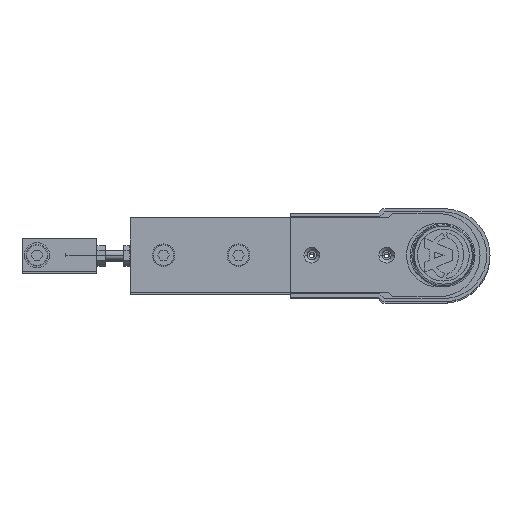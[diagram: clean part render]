
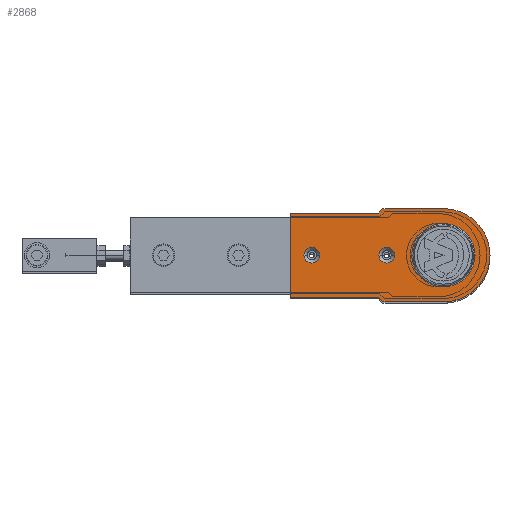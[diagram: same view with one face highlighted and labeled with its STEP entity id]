
A CAD part, top view. The second image highlights one B-rep face of the part: STEP entity #2868.
In plain terms, the highlighted planar face has unit normal (0, 0, 1).
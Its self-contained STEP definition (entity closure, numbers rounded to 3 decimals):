
#200 = CARTESIAN_POINT ( 'NONE',  ( 79., 0., 37. ) ) ;
#485 = EDGE_CURVE ( 'NONE', #3240, #4390, #10480, .T. ) ;
#493 = DIRECTION ( 'NONE',  ( 0., 0., -1. ) ) ;
#516 = VERTEX_POINT ( 'NONE', #3398 ) ;
#723 = CARTESIAN_POINT ( 'NONE',  ( 0., 0., 37. ) ) ;
#729 = DIRECTION ( 'NONE',  ( 0., 0., 1. ) ) ;
#996 = EDGE_CURVE ( 'NONE', #7141, #6747, #2289, .T. ) ;
#1041 = VECTOR ( 'NONE', #3811, 1000. ) ;
#1132 = AXIS2_PLACEMENT_3D ( 'NONE', #723, #8504, #9567 ) ;
#1324 = EDGE_CURVE ( 'NONE', #5258, #7141, #1955, .T. ) ;
#1378 = VECTOR ( 'NONE', #2640, 1000. ) ;
#1412 = ORIENTED_EDGE ( 'NONE', *, *, #2150, .T. ) ;
#1518 = EDGE_LOOP ( 'NONE', ( #7867, #2870, #4791, #1412, #4377, #2386, #2671, #11384, #12159 ) ) ;
#1547 = CARTESIAN_POINT ( 'NONE',  ( 34., 0., 37. ) ) ;
#1692 = AXIS2_PLACEMENT_3D ( 'NONE', #2829, #9763, #10941 ) ;
#1842 = DIRECTION ( 'NONE',  ( 1., 0., 0. ) ) ;
#1916 = DIRECTION ( 'NONE',  ( -1., 0., 0. ) ) ;
#1923 = FACE_BOUND ( 'NONE', #6279, .T. ) ;
#1938 = DIRECTION ( 'NONE',  ( 1., 0., 0. ) ) ;
#1955 = LINE ( 'NONE', #2708, #1041 ) ;
#2150 = EDGE_CURVE ( 'NONE', #6293, #7556, #3019, .T. ) ;
#2254 = DIRECTION ( 'NONE',  ( 0.707, 0.707, 0. ) ) ;
#2256 = VECTOR ( 'NONE', #1938, 1000. ) ;
#2289 = LINE ( 'NONE', #4082, #6770 ) ;
#2385 = CIRCLE ( 'NONE', #10486, 4.7 ) ;
#2386 = ORIENTED_EDGE ( 'NONE', *, *, #7532, .T. ) ;
#2420 = LINE ( 'NONE', #9786, #2256 ) ;
#2427 = CIRCLE ( 'NONE', #11210, 18.996 ) ;
#2457 = CARTESIAN_POINT ( 'NONE',  ( 79., 0., 37. ) ) ;
#2459 = DIRECTION ( 'NONE',  ( 0., 0., 1. ) ) ;
#2640 = DIRECTION ( 'NONE',  ( 0., 1., 0. ) ) ;
#2671 = ORIENTED_EDGE ( 'NONE', *, *, #12811, .T. ) ;
#2708 = CARTESIAN_POINT ( 'NONE',  ( 36.25, 28., 37. ) ) ;
#2829 = CARTESIAN_POINT ( 'NONE',  ( 0., 0., 37. ) ) ;
#2853 = VERTEX_POINT ( 'NONE', #6612 ) ;
#2868 = ADVANCED_FACE ( 'NONE', ( #5011, #1923, #9997, #9680 ), #4743, .T. ) ;
#2870 = ORIENTED_EDGE ( 'NONE', *, *, #996, .T. ) ;
#2905 = ORIENTED_EDGE ( 'NONE', *, *, #7182, .F. ) ;
#2911 = AXIS2_PLACEMENT_3D ( 'NONE', #200, #10084, #5083 ) ;
#2923 = CARTESIAN_POINT ( 'NONE',  ( 92., -25.25, 37. ) ) ;
#3019 = CIRCLE ( 'NONE', #1692, 28. ) ;
#3074 = CARTESIAN_POINT ( 'NONE',  ( 36.25, -28., 37. ) ) ;
#3111 = CARTESIAN_POINT ( 'NONE',  ( 39., 25.25, 37. ) ) ;
#3240 = VERTEX_POINT ( 'NONE', #12246 ) ;
#3333 = CARTESIAN_POINT ( 'NONE',  ( 36.25, 28., 37. ) ) ;
#3398 = CARTESIAN_POINT ( 'NONE',  ( 39., -25.25, 37. ) ) ;
#3448 = LINE ( 'NONE', #3074, #11223 ) ;
#3643 = EDGE_CURVE ( 'NONE', #7556, #10477, #2420, .T. ) ;
#3655 = CARTESIAN_POINT ( 'NONE',  ( 38.7, 0., 37. ) ) ;
#3660 = AXIS2_PLACEMENT_3D ( 'NONE', #7639, #729, #4580 ) ;
#3787 = ORIENTED_EDGE ( 'NONE', *, *, #6797, .F. ) ;
#3811 = DIRECTION ( 'NONE',  ( -0.707, 0.707, 0. ) ) ;
#3816 = EDGE_LOOP ( 'NONE', ( #4575, #3787 ) ) ;
#3883 = AXIS2_PLACEMENT_3D ( 'NONE', #2457, #9393, #5397 ) ;
#4053 = CARTESIAN_POINT ( 'NONE',  ( -18.996, 0., 37. ) ) ;
#4057 = ORIENTED_EDGE ( 'NONE', *, *, #6346, .T. ) ;
#4082 = CARTESIAN_POINT ( 'NONE',  ( 0., 28., 37. ) ) ;
#4133 = CIRCLE ( 'NONE', #9108, 4.7 ) ;
#4168 = CIRCLE ( 'NONE', #7083, 18.996 ) ;
#4377 = ORIENTED_EDGE ( 'NONE', *, *, #3643, .T. ) ;
#4390 = VERTEX_POINT ( 'NONE', #10318 ) ;
#4575 = ORIENTED_EDGE ( 'NONE', *, *, #485, .F. ) ;
#4580 = DIRECTION ( 'NONE',  ( 1., 0., 0. ) ) ;
#4603 = EDGE_CURVE ( 'NONE', #11997, #5258, #11617, .T. ) ;
#4641 = LINE ( 'NONE', #2923, #9130 ) ;
#4743 = PLANE ( 'NONE',  #1132 ) ;
#4791 = ORIENTED_EDGE ( 'NONE', *, *, #12656, .T. ) ;
#5011 = FACE_BOUND ( 'NONE', #10908, .T. ) ;
#5083 = DIRECTION ( 'NONE',  ( 1., 0., 0. ) ) ;
#5258 = VERTEX_POINT ( 'NONE', #3111 ) ;
#5397 = DIRECTION ( 'NONE',  ( 1., 0., 0. ) ) ;
#5984 = EDGE_CURVE ( 'NONE', #11465, #9695, #4133, .T. ) ;
#6279 = EDGE_LOOP ( 'NONE', ( #2905, #7765 ) ) ;
#6293 = VERTEX_POINT ( 'NONE', #9811 ) ;
#6346 = EDGE_CURVE ( 'NONE', #8584, #2853, #2427, .T. ) ;
#6535 = VERTEX_POINT ( 'NONE', #7837 ) ;
#6612 = CARTESIAN_POINT ( 'NONE',  ( 18.996, 0., 37. ) ) ;
#6747 = VERTEX_POINT ( 'NONE', #11916 ) ;
#6770 = VECTOR ( 'NONE', #9103, 1000. ) ;
#6797 = EDGE_CURVE ( 'NONE', #4390, #3240, #7331, .T. ) ;
#7083 = AXIS2_PLACEMENT_3D ( 'NONE', #9423, #493, #12377 ) ;
#7141 = VERTEX_POINT ( 'NONE', #3333 ) ;
#7182 = EDGE_CURVE ( 'NONE', #9695, #11465, #2385, .T. ) ;
#7258 = CARTESIAN_POINT ( 'NONE',  ( 34., 0., 37. ) ) ;
#7331 = CIRCLE ( 'NONE', #2911, 4.7 ) ;
#7389 = CARTESIAN_POINT ( 'NONE',  ( 92., 25.25, 37. ) ) ;
#7532 = EDGE_CURVE ( 'NONE', #10477, #516, #3448, .T. ) ;
#7556 = VERTEX_POINT ( 'NONE', #8997 ) ;
#7639 = CARTESIAN_POINT ( 'NONE',  ( 0., 0., 37. ) ) ;
#7699 = ORIENTED_EDGE ( 'NONE', *, *, #9617, .T. ) ;
#7765 = ORIENTED_EDGE ( 'NONE', *, *, #5984, .F. ) ;
#7837 = CARTESIAN_POINT ( 'NONE',  ( 92., -25.25, 37. ) ) ;
#7867 = ORIENTED_EDGE ( 'NONE', *, *, #1324, .T. ) ;
#8136 = DIRECTION ( 'NONE',  ( 1., 0., 0. ) ) ;
#8156 = VECTOR ( 'NONE', #1916, 1000. ) ;
#8504 = DIRECTION ( 'NONE',  ( 0., 0., 1. ) ) ;
#8584 = VERTEX_POINT ( 'NONE', #4053 ) ;
#8997 = CARTESIAN_POINT ( 'NONE',  ( 0., -28., 37. ) ) ;
#9103 = DIRECTION ( 'NONE',  ( -1., 0., 0. ) ) ;
#9108 = AXIS2_PLACEMENT_3D ( 'NONE', #1547, #2459, #9440 ) ;
#9130 = VECTOR ( 'NONE', #1842, 1000. ) ;
#9185 = DIRECTION ( 'NONE',  ( 0., 0., 1. ) ) ;
#9393 = DIRECTION ( 'NONE',  ( 0., 0., 1. ) ) ;
#9423 = CARTESIAN_POINT ( 'NONE',  ( 0., 0., 37. ) ) ;
#9440 = DIRECTION ( 'NONE',  ( 1., 0., 0. ) ) ;
#9478 = CARTESIAN_POINT ( 'NONE',  ( 36.25, -28., 37. ) ) ;
#9567 = DIRECTION ( 'NONE',  ( 1., 0., 0. ) ) ;
#9617 = EDGE_CURVE ( 'NONE', #2853, #8584, #4168, .T. ) ;
#9680 = FACE_OUTER_BOUND ( 'NONE', #1518, .T. ) ;
#9695 = VERTEX_POINT ( 'NONE', #3655 ) ;
#9763 = DIRECTION ( 'NONE',  ( 0., 0., 1. ) ) ;
#9786 = CARTESIAN_POINT ( 'NONE',  ( 0., -28., 37. ) ) ;
#9811 = CARTESIAN_POINT ( 'NONE',  ( -28., 0., 37. ) ) ;
#9986 = CARTESIAN_POINT ( 'NONE',  ( 39., 25.25, 37. ) ) ;
#9997 = FACE_BOUND ( 'NONE', #3816, .T. ) ;
#10084 = DIRECTION ( 'NONE',  ( 0., 0., 1. ) ) ;
#10318 = CARTESIAN_POINT ( 'NONE',  ( 74.3, 0., 37. ) ) ;
#10327 = DIRECTION ( 'NONE',  ( 1., 0., 0. ) ) ;
#10477 = VERTEX_POINT ( 'NONE', #9478 ) ;
#10480 = CIRCLE ( 'NONE', #3883, 4.7 ) ;
#10486 = AXIS2_PLACEMENT_3D ( 'NONE', #7258, #9185, #10327 ) ;
#10853 = LINE ( 'NONE', #11662, #1378 ) ;
#10908 = EDGE_LOOP ( 'NONE', ( #7699, #4057 ) ) ;
#10941 = DIRECTION ( 'NONE',  ( 1., 0., 0. ) ) ;
#11026 = CARTESIAN_POINT ( 'NONE',  ( 0., 0., 37. ) ) ;
#11164 = DIRECTION ( 'NONE',  ( 0., 0., -1. ) ) ;
#11210 = AXIS2_PLACEMENT_3D ( 'NONE', #11026, #11164, #8136 ) ;
#11223 = VECTOR ( 'NONE', #2254, 1000. ) ;
#11315 = CARTESIAN_POINT ( 'NONE',  ( 29.3, 0., 37. ) ) ;
#11384 = ORIENTED_EDGE ( 'NONE', *, *, #12735, .T. ) ;
#11465 = VERTEX_POINT ( 'NONE', #11315 ) ;
#11617 = LINE ( 'NONE', #9986, #8156 ) ;
#11662 = CARTESIAN_POINT ( 'NONE',  ( 92., 25.25, 37. ) ) ;
#11916 = CARTESIAN_POINT ( 'NONE',  ( 0., 28., 37. ) ) ;
#11997 = VERTEX_POINT ( 'NONE', #7389 ) ;
#12159 = ORIENTED_EDGE ( 'NONE', *, *, #4603, .T. ) ;
#12246 = CARTESIAN_POINT ( 'NONE',  ( 83.7, 0., 37. ) ) ;
#12260 = CIRCLE ( 'NONE', #3660, 28. ) ;
#12377 = DIRECTION ( 'NONE',  ( 1., 0., 0. ) ) ;
#12656 = EDGE_CURVE ( 'NONE', #6747, #6293, #12260, .T. ) ;
#12735 = EDGE_CURVE ( 'NONE', #6535, #11997, #10853, .T. ) ;
#12811 = EDGE_CURVE ( 'NONE', #516, #6535, #4641, .T. ) ;
